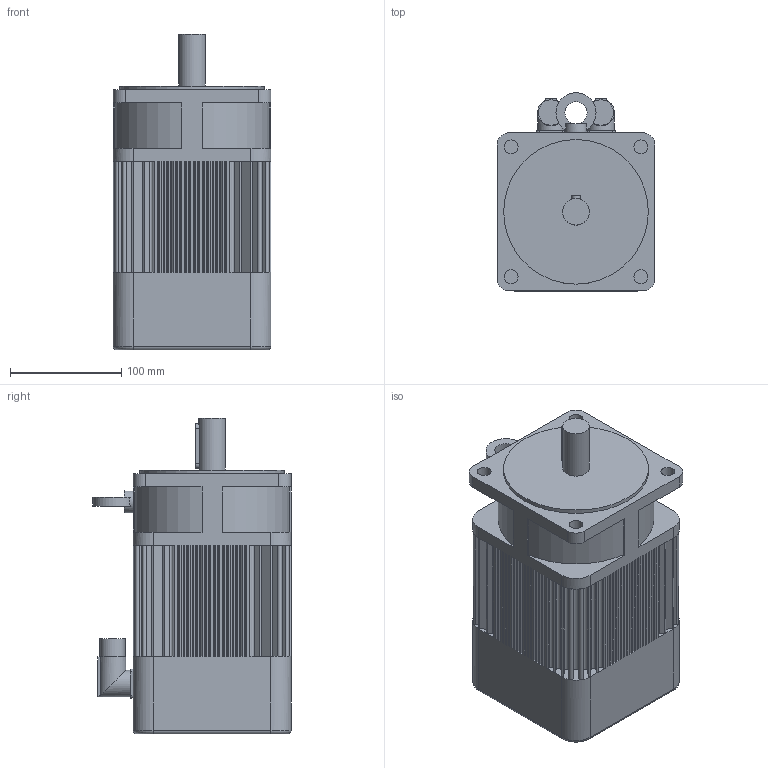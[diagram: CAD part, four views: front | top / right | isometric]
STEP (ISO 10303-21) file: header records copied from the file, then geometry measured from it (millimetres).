
FILE_DESCRIPTION(/* description */ (''),/* implementation_level */ '2;1');
FILE_NAME(/* name */ '\\Lafnas01\disegni\Archivi Lafert\3D\CAD 3D\MODELLI\Assiemi clienti\Serad\Modelli 3D Serad\B71I\Resolver\Res Without Brake\B7108Ixx6A052033.ipt.stp',/* time_stamp */ '2015-09-07T10:52:02+02:00',/* author */ ('Pastrello Ylenia'),/* organization */ (''),/* preprocessor_version */ 'ST-DEVELOPER v15.6',/* originating_system */ 'Autodesk Inventor 2015',/* authorisation */ '');
FILE_SCHEMA (('AUTOMOTIVE_DESIGN { 1 0 10303 214 3 1 1 }'));
Length unit declared in the file: millimetre
Products named in the file (1): B7108Ixx6A052033
Bounding box: 142 x 178 x 283.5 mm (x, y, z)
Volume: 4433743 mm3; surface area: 242970.4 mm2
Topology: 1 solids, 1 shells, 547 faces, 1378 edges, 903 vertices
Faces by surface type: plane 430, cylinder 113, torus 4
Full cylindrical faces by diameter (mm): 12.5 x4, 20 x2, 22.7 x2, 24 x3, 130 x1
Entity records: 16305 total; most frequent: CARTESIAN_POINT 2863, DIRECTION 2786, ORIENTED_EDGE 2724, EDGE_CURVE 1362, LINE 1026, VECTOR 1026, VERTEX_POINT 900, AXIS2_PLACEMENT_3D 880
